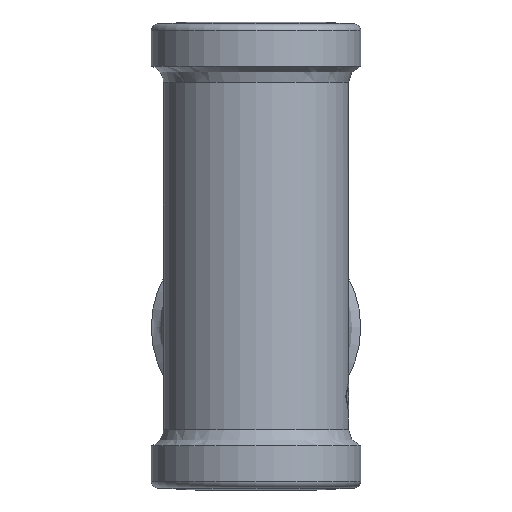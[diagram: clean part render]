
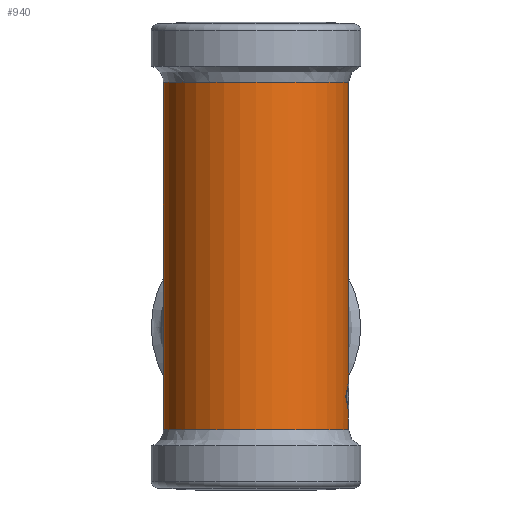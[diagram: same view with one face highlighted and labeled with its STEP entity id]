
A CAD part, front view. The second image highlights one B-rep face of the part: STEP entity #940.
In plain terms, the highlighted cylindrical face has radius 13.65 mm (diameter 27.3 mm), a full revolution.
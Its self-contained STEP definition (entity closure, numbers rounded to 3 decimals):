
#255=CARTESIAN_POINT('',(13.646,-0.314,-13.729));
#256=VERTEX_POINT('',#255);
#257=CARTESIAN_POINT('',(13.203,-3.463,-10.23));
#258=VERTEX_POINT('',#257);
#259=CARTESIAN_POINT('',(0.0,0.0,-14.078));
#260=DIRECTION('',(0.0,-0.743,-0.669));
#261=DIRECTION('',(0.0,-0.669,0.743));
#262=AXIS2_PLACEMENT_3D('',#259,#260,#261);
#263=ELLIPSE('',#262,20.405,13.65);
#264=EDGE_CURVE('',#256,#258,#263,.T.);
#287=CARTESIAN_POINT('',(13.646,-0.314,-6.732));
#288=VERTEX_POINT('',#287);
#289=CARTESIAN_POINT('',(0.0,0.0,-6.383));
#290=DIRECTION('',(0.0,-0.743,0.669));
#291=DIRECTION('',(0.0,-0.669,-0.743));
#292=AXIS2_PLACEMENT_3D('',#289,#290,#291);
#293=ELLIPSE('',#292,20.405,13.65);
#294=EDGE_CURVE('',#258,#288,#293,.T.);
#312=CARTESIAN_POINT('',(13.352,2.835,-10.23));
#313=VERTEX_POINT('',#312);
#314=CARTESIAN_POINT('',(0.0,0.0,-13.38));
#315=DIRECTION('',(0.0,0.743,-0.669));
#316=DIRECTION('',(0.0,-0.669,-0.743));
#317=AXIS2_PLACEMENT_3D('',#314,#315,#316);
#318=ELLIPSE('',#317,20.405,13.65);
#319=EDGE_CURVE('',#313,#256,#318,.T.);
#337=CARTESIAN_POINT('',(0.0,0.0,-7.08));
#338=DIRECTION('',(0.0,0.743,0.669));
#339=DIRECTION('',(0.0,-0.669,0.743));
#340=AXIS2_PLACEMENT_3D('',#337,#338,#339);
#341=ELLIPSE('',#340,20.405,13.65);
#342=EDGE_CURVE('',#288,#313,#341,.T.);
#850=CARTESIAN_POINT('',(0.0,0.0,0.0));
#851=DIRECTION('',(0.0,0.0,1.0));
#852=DIRECTION('',(-1.0,0.0,0.0));
#853=AXIS2_PLACEMENT_3D('',#850,#851,#852);
#854=CYLINDRICAL_SURFACE('',#853,13.65);
#855=CARTESIAN_POINT('',(13.65,0.,-15.1));
#856=VERTEX_POINT('',#855);
#857=CARTESIAN_POINT('',(0.0,0.0,-15.1));
#858=DIRECTION('',(0.0,0.0,-1.0));
#859=DIRECTION('',(-1.0,0.0,0.0));
#860=AXIS2_PLACEMENT_3D('',#857,#858,#859);
#861=CIRCLE('',#860,13.65);
#862=EDGE_CURVE('',#856,#856,#861,.T.);
#863=ORIENTED_EDGE('',*,*,#862,.F.);
#864=EDGE_LOOP('',(#863));
#865=FACE_OUTER_BOUND('',#864,.T.);
#866=CARTESIAN_POINT('',(13.65,0.,33.1));
#867=VERTEX_POINT('',#866);
#868=CARTESIAN_POINT('',(-13.65,0.0,33.1));
#869=VERTEX_POINT('',#868);
#870=CARTESIAN_POINT('',(13.65,0.,33.1));
#871=CARTESIAN_POINT('',(13.65,-0.001,32.863));
#872=CARTESIAN_POINT('',(13.65,0.002,32.469));
#873=CARTESIAN_POINT('',(13.65,0.028,30.258));
#874=CARTESIAN_POINT('',(13.651,0.206,26.473));
#875=CARTESIAN_POINT('',(13.631,0.866,20.837));
#876=CARTESIAN_POINT('',(13.551,1.732,16.201));
#877=CARTESIAN_POINT('',(13.407,2.596,12.567));
#878=CARTESIAN_POINT('',(13.157,3.733,8.369));
#879=CARTESIAN_POINT('',(12.725,5.067,4.365));
#880=CARTESIAN_POINT('',(12.009,6.516,0.636));
#881=CARTESIAN_POINT('',(11.474,7.42,-1.54));
#882=CARTESIAN_POINT('',(10.703,8.516,-4.016));
#883=CARTESIAN_POINT('',(9.684,9.675,-6.455));
#884=CARTESIAN_POINT('',(8.617,10.608,-8.298));
#885=CARTESIAN_POINT('',(7.595,11.36,-9.739));
#886=CARTESIAN_POINT('',(6.498,12.043,-11.01));
#887=CARTESIAN_POINT('',(4.899,12.785,-12.345));
#888=CARTESIAN_POINT('',(3.43,13.238,-13.138));
#889=CARTESIAN_POINT('',(2.287,13.464,-13.531));
#890=CARTESIAN_POINT('',(1.276,13.608,-13.779));
#891=CARTESIAN_POINT('',(-0.037,13.68,-13.903));
#892=CARTESIAN_POINT('',(-1.586,13.587,-13.744));
#893=CARTESIAN_POINT('',(-3.097,13.322,-13.285));
#894=CARTESIAN_POINT('',(-4.484,12.918,-12.578));
#895=CARTESIAN_POINT('',(-5.757,12.4,-11.655));
#896=CARTESIAN_POINT('',(-6.894,11.802,-10.563));
#897=CARTESIAN_POINT('',(-8.23,10.938,-8.945));
#898=CARTESIAN_POINT('',(-9.615,9.759,-6.636));
#899=CARTESIAN_POINT('',(-11.274,7.857,-2.626));
#900=CARTESIAN_POINT('',(-12.183,6.243,1.238));
#901=CARTESIAN_POINT('',(-12.707,4.999,4.669));
#902=CARTESIAN_POINT('',(-12.995,4.211,6.977));
#903=CARTESIAN_POINT('',(-13.312,3.118,10.51));
#904=CARTESIAN_POINT('',(-13.537,1.888,15.352));
#905=CARTESIAN_POINT('',(-13.632,0.857,20.898));
#906=CARTESIAN_POINT('',(-13.651,0.2,26.542));
#907=CARTESIAN_POINT('',(-13.65,0.025,30.336));
#908=CARTESIAN_POINT('',(-13.65,0.002,32.52));
#909=CARTESIAN_POINT('',(-13.65,-0.001,32.882));
#910=CARTESIAN_POINT('',(-13.65,0.,33.1));
#911=B_SPLINE_CURVE_WITH_KNOTS('',3,(#870,#871,#872,#873,#874,#875,#876,#877,#878,#879,#880,#881,#882,#883,#884,#885,#886,#887,#888,#889,#890,#891,#892,#893,#894,#895,#896,#897,#898,#899,#900,#901,#902,#903,#904,#905,#906,#907,#908,#909,#910),.UNSPECIFIED.,.F.,.U.,(4,2,1,1,1,1,1,1,1,1,1,1,1,1,1,1,1,1,1,1,1,1,1,1,1,1,1,1,1,1,1,1,1,1,1,2,4),(-11.458,-11.363,-10.795,-10.227,-9.659,-9.375,-9.091,-8.333,-8.081,-7.828,-7.576,-7.197,-6.913,-6.818,-6.566,-6.313,-6.06,-5.966,-5.871,-5.682,-5.492,-5.303,-5.114,-4.924,-4.735,-4.545,-4.167,-3.788,-3.03,-2.841,-2.651,-2.273,-1.705,-1.136,-0.568,0.,0.087),.UNSPECIFIED.);
#912=EDGE_CURVE('',#867,#869,#911,.T.);
#913=ORIENTED_EDGE('',*,*,#912,.F.);
#914=CARTESIAN_POINT('',(0.0,0.0,33.1));
#915=DIRECTION('',(0.0,0.0,1.0));
#916=DIRECTION('',(0.0,-1.0,0.0));
#917=AXIS2_PLACEMENT_3D('',#914,#915,#916);
#918=CIRCLE('',#917,13.65);
#919=EDGE_CURVE('',#867,#869,#918,.T.);
#920=ORIENTED_EDGE('',*,*,#919,.T.);
#921=EDGE_LOOP('',(#913,#920));
#922=FACE_BOUND('',#921,.T.);
#923=CARTESIAN_POINT('',(-13.65,0.,36.1));
#924=VERTEX_POINT('',#923);
#925=CARTESIAN_POINT('',(0.0,0.0,36.1));
#926=DIRECTION('',(0.0,0.0,1.0));
#927=DIRECTION('',(1.0,0.0,0.0));
#928=AXIS2_PLACEMENT_3D('',#925,#926,#927);
#929=CIRCLE('',#928,13.65);
#930=EDGE_CURVE('',#924,#924,#929,.T.);
#931=ORIENTED_EDGE('',*,*,#930,.F.);
#932=EDGE_LOOP('',(#931));
#933=FACE_BOUND('',#932,.T.);
#934=ORIENTED_EDGE('',*,*,#264,.T.);
#935=ORIENTED_EDGE('',*,*,#294,.T.);
#936=ORIENTED_EDGE('',*,*,#342,.T.);
#937=ORIENTED_EDGE('',*,*,#319,.T.);
#938=EDGE_LOOP('',(#934,#935,#936,#937));
#939=FACE_BOUND('',#938,.T.);
#940=ADVANCED_FACE('',(#865,#922,#933,#939),#854,.T.);
